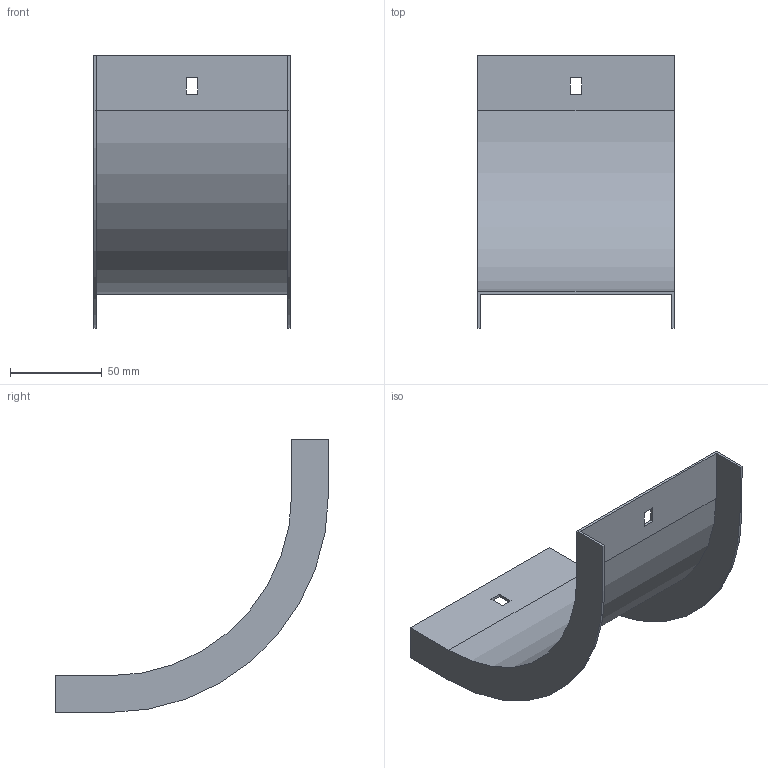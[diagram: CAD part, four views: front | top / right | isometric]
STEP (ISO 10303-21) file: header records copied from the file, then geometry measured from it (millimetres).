
FILE_DESCRIPTION (( 'STEP AP214' ), '1' );
FILE_NAME ('30G1P100.step', '2025-02-21T12:48:20', ( '' ), ( '' ), 'SwSTEP 2.0', 'SolidWorks 2023', '' );
FILE_SCHEMA (( 'AUTOMOTIVE_DESIGN' ));
Length unit declared in the file: millimetre
Products named in the file (1): 30G1P100
Bounding box: 107 x 148.5 x 148.5 mm (x, y, z)
Volume: 47331 mm3; surface area: 64367.9 mm2
Topology: 1 solids, 1 shells, 26 faces, 72 edges, 48 vertices
Faces by surface type: plane 22, cylinder 4
Entity records: 855 total; most frequent: CARTESIAN_POINT 147, ORIENTED_EDGE 144, DIRECTION 134, EDGE_CURVE 72, LINE 64, VECTOR 64, VERTEX_POINT 48, AXIS2_PLACEMENT_3D 35
